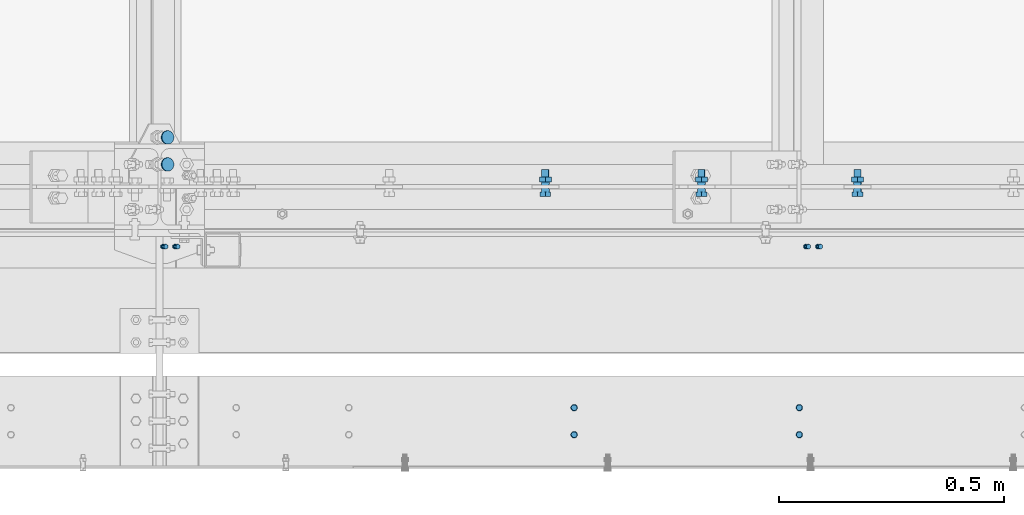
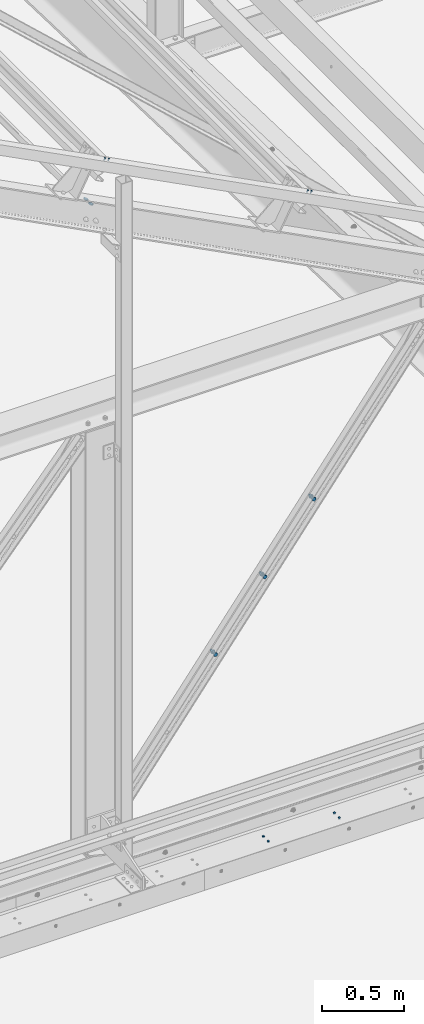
# One storey, part 269 of 362: 8 mechanical fasteners.
"""IFC2X3 building model written with IfcOpenShell, lengths in millimetres."""

from ifc_helpers import new_model, si_unit, frame, origin_with_axes, origin_2d_with_axis, place, context, subcontext, project, spatial, polyline, circle, outline, extrude, source, transform, mapped, material, type_object, element, save


model = new_model("IFC2X3")

# Units and contexts
model_context = context("Model", 3, precision=1e-05, world=origin_with_axes())
body_context = subcontext(model_context, "Body", "Model", "MODEL_VIEW")
ifc_project = project(units=[si_unit("LENGTHUNIT", "METRE", prefix="MILLI"), si_unit("AREAUNIT", "SQUARE_METRE"), si_unit("VOLUMEUNIT", "CUBIC_METRE"), si_unit("MASSUNIT", "GRAM", prefix="KILO"), si_unit("TIMEUNIT", "SECOND"), si_unit("PLANEANGLEUNIT", "RADIAN"), si_unit("SOLIDANGLEUNIT", "STERADIAN"), si_unit("THERMODYNAMICTEMPERATUREUNIT", "DEGREE_CELSIUS"), si_unit("LUMINOUSINTENSITYUNIT", "LUMEN")], contexts=[model_context])

# Site, building, storey
site_placement = place(None, origin_with_axes())
site = spatial("IfcSite", under=ifc_project, at=site_placement, Name="Undefined", CompositionType="ELEMENT")
building_placement = place(site_placement, origin_with_axes())
building = spatial("IfcBuilding", under=site, at=building_placement, Name="Undefined", CompositionType="ELEMENT")
storey_placement = place(building_placement, origin_with_axes())
storey = spatial("IfcBuildingStorey", under=building, at=storey_placement, Name="Undefined", CompositionType="ELEMENT", Elevation=0.0)

# Mechanical fasteners
ifc_material_1 = material(Name="8.8-SB-ZINGUE")
mechanical_fastener_type = type_object("IfcMechanicalFastenerType", Name="Bolt assembly")
shared_shape_1 = source(origin_with_axes(), body_context, "Body", "SweptSolid", [
    extrude(circle(Radius=7.0, at=origin_2d_with_axis()), frame((0.0, -8.5, 0.0), z_axis=(0.0, 1.0, 0.0), x_axis=(1.0, 0.0, 0.0)), (0.0, 0.0, 1.0), 8.6),
])
for number, where, z_axis, x_axis, name in (
    (1, (27094.9989211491, -490.0, 5229.99824538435), (-1.0, 0.0, 0.0), (0.0, -1.0, 0.0), "Bolt assembly"),
    (2, (27594.9989211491, -490.0, 5229.99824538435), (-1.0, 0.0, 0.0), (0.0, -1.0, 0.0), "Bolt assembly"),
):
    element("IfcMechanicalFastener", number, at=place(storey_placement, frame(where, z_axis=z_axis, x_axis=x_axis)), inside=storey, type_object=mechanical_fastener_type, material=ifc_material_1, Name=name, NominalDiameter=12.0, NominalLength=8.5, context=body_context, shape_type="MappedRepresentation", body=[
        mapped(shared_shape_1, transform((0.0, 0.0, 0.0))),
        mapped(shared_shape_1, transform((60.0, 0.0, 0.0))),
    ])
shared_shape_2 = source(origin_with_axes(), body_context, "Body", "SweptSolid", [
    extrude(circle(Radius=9.0, at=origin_2d_with_axis()), frame((0.0, -10.9000000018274, 0.0), z_axis=(0.0, 1.0, 0.0), x_axis=(1.0, 0.0, 0.0)), (0.0, 0.0, 1.0), 6.0),
    extrude(circle(Radius=9.0, at=origin_2d_with_axis()), frame((0.0, 4.9000000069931, 0.0), z_axis=(0.0, 1.0, 0.0), x_axis=(1.0, 0.0, 0.0)), (0.0, 0.0, 1.0), 6.1),
    extrude(circle(Radius=9.0, at=origin_2d_with_axis()), frame((0.0, -3.99999923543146, 0.0), z_axis=(0.0, 1.0, 0.0), x_axis=(1.0, 0.0, 0.0)), (0.0, 0.0, 1.0), 8.0),
    extrude(outline(polyline([(13.85640646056, 0.0), (6.92820323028, 12.0000000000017), (-6.92820323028, 12.0000000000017), (-13.85640646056, 0.0), (-6.92820323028, -12.0000000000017), (6.92820323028, -12.0000000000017), (13.85640646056, 0.0)])), frame((0.0, -21.5600000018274, 0.0), z_axis=(0.0, 1.0, 0.0), x_axis=(1.0, 0.0, 0.0)), (0.0, 0.0, 1.0), 10.56),
    extrude(circle(Radius=8.0, at=origin_2d_with_axis()), frame((0.0, -11.0000000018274, 0.0), z_axis=(0.0, 1.0, 0.0), x_axis=(1.0, 0.0, 0.0)), (0.0, 0.0, 1.0), 50.0),
    extrude(outline(polyline([(15.3344231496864, 0.0), (7.6672115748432, 13.2800000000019), (-7.6672115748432, 13.2800000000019), (-15.3344231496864, 0.0), (-7.6672115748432, -13.2800000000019), (7.6672115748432, -13.2800000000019), (15.3344231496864, 0.0)])), frame((0.0, 11.0000000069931, 0.0), z_axis=(0.0, 1.0, 0.0), x_axis=(1.0, 0.0, 0.0)), (0.0, 0.0, 1.0), 10.56),
])
for number, where, z_axis, x_axis, name in (
    (3, (27723.9334484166, 0.0, 7231.63454064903), (1.0, 0.0, 0.0), (0.0, 0.0, -1.0), "Bolt assembly"),
    (4, (27377.4980464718, 0.0, 6775.00270734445), (1.0, 0.0, 0.0), (0.0, 0.0, -1.0), "Bolt assembly"),
    (5, (27031.062644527, 0.0, 6318.37087403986), (1.0, 0.0, 0.0), (0.0, 0.0, -1.0), "Bolt assembly"),
):
    element("IfcMechanicalFastener", number, at=place(storey_placement, frame(where, z_axis=z_axis, x_axis=x_axis)), inside=storey, type_object=mechanical_fastener_type, material=ifc_material_1, Name=name, NominalDiameter=16.0, NominalLength=50.0, context=body_context, shape_type="MappedRepresentation", body=[
        mapped(shared_shape_2, transform((0.0, 0.0, 0.0))),
    ])
ifc_material_2 = material(Name="6.8")
shared_shape_3 = source(origin_with_axes(), body_context, "Body", "SweptSolid", [
    extrude(circle(Radius=4.0, at=origin_2d_with_axis()), frame((0.0, 0.0, 0.0), z_axis=(0.0, 1.0, 0.0), x_axis=(1.0, 0.0, 0.0)), (0.0, 0.0, 1.0), 7.1),
    extrude(outline(polyline([(5.7735026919, 0.0), (2.88675134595, 5.00000000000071), (-2.88675134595, 5.00000000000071), (-5.7735026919, 0.0), (-2.88675134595, -5.00000000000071), (2.88675134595, -5.00000000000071), (5.7735026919, 0.0)])), frame((0.0, -3.99999923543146, 0.0), z_axis=(0.0, 1.0, 0.0), x_axis=(1.0, 0.0, 0.0)), (0.0, 0.0, 1.0), 4.0),
    extrude(circle(Radius=3.0, at=origin_2d_with_axis()), frame((0.0, 0.0, 0.0), z_axis=(0.0, 1.0, 0.0), x_axis=(1.0, 0.0, 0.0)), (0.0, 0.0, 1.0), 16.0),
    extrude(outline(polyline([(5.7735026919, 0.0), (2.88675134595, 5.00000000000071), (-2.88675134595, 5.00000000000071), (-5.7735026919, 0.0), (-2.88675134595, -5.00000000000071), (2.88675134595, -5.00000000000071), (5.7735026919, 0.0)])), frame((0.0, 7.0, 0.0), z_axis=(0.0, 1.0, 0.0), x_axis=(1.0, 0.0, 0.0)), (0.0, 0.0, 1.0), 5.2),
])
for number, where, z_axis, x_axis, name in (
    (6, (27627.1083720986, -132.49992038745, 9630.62631107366), (-0.887869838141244, 0.0, 0.460094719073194), (0.0, 1.0, 0.0), "Bolt assembly"),
    (7, (26200.483371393, -132.49992038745, 10369.9012879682), (-0.887869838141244, 0.0, 0.460094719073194), (0.0, 1.0, 0.0), "Bolt assembly"),
):
    element("IfcMechanicalFastener", number, at=place(storey_placement, frame(where, z_axis=z_axis, x_axis=x_axis)), inside=storey, type_object=mechanical_fastener_type, material=ifc_material_2, Name=name, NominalDiameter=6.0, NominalLength=16.0, context=body_context, shape_type="MappedRepresentation", body=[
        mapped(shared_shape_3, transform((0.0, 0.0, -15.0))),
        mapped(shared_shape_3, transform((0.0, -3.63797880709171e-12, 15.0000000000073))),
    ])
shared_shape_4 = source(origin_with_axes(), body_context, "Body", "SweptSolid", [
    extrude(circle(Radius=15.0, at=origin_2d_with_axis()), frame((0.0, 6.26397177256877e-05, 0.0), z_axis=(0.0, 1.0, 0.0), x_axis=(1.0, 0.0, 0.0)), (0.0, 0.0, 1.0), 4.1),
])
mechanical_fastener_placement = place(storey_placement, frame((26193.4080591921, 50.0002728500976, 9926.43055001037), z_axis=(-0.887870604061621, -1.29999898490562e-08, 0.460093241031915), x_axis=(0.0, 1.0, 0.0)))
element("IfcMechanicalFastener", 8, at=mechanical_fastener_placement, inside=storey, type_object=mechanical_fastener_type, material=ifc_material_2, Name="Bolt assembly", NominalDiameter=30.0, NominalLength=4.0, context=body_context, shape_type="MappedRepresentation", body=[
    mapped(shared_shape_4, transform((0.0, 0.0, 0.0))),
    mapped(shared_shape_4, transform((60.0, 0.0, 0.0))),
])

save(model, "model.ifc")
